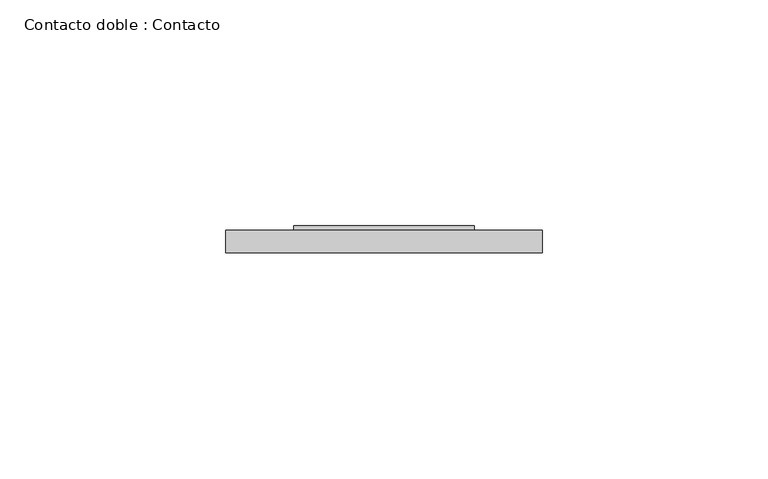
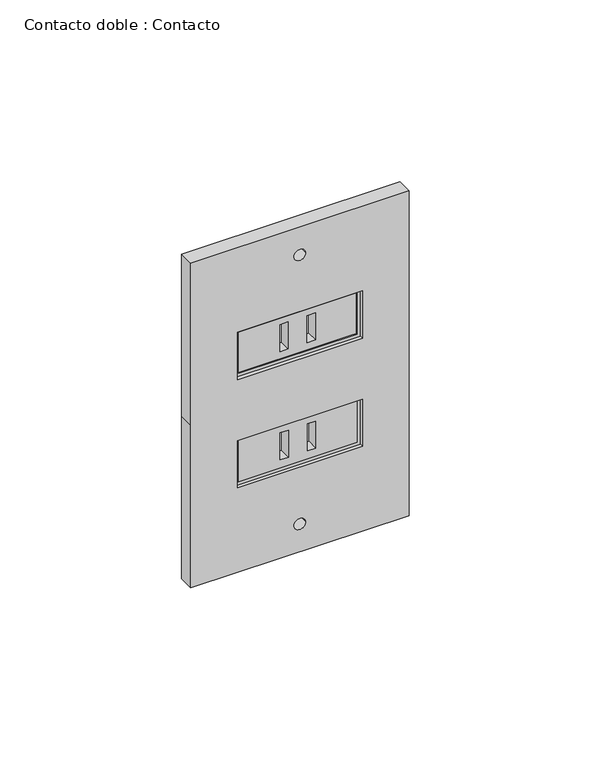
"""IFC4 building model written with IfcOpenShell, lengths in millimetres: proxy geometry, Contacto doble : Contacto."""

import ifcopenshell
import ifcopenshell.guid

model = None  # the IFC model being written
_history = None  # IfcOwnerHistory: only IFC2X3 demands one
_inside = {}  # id of a spatial element -> (the spatial element, [elements in it])
_under = {}  # id of a project, library or spatial element -> (it, [spatial elements below it])
_declared = {}  # id of a project -> (the project, [libraries it declares])
_typed = {}  # id of a type object -> (the type object, [elements of that type])
_made_of = {}  # id of a material, layer set ... -> (it, [elements and type objects made of it])


def new_model(schema):
    """Start an empty IFC model of exactly this schema.

    Asked for "IFC4X3", IfcOpenShell would pick the latest addendum, in which some entities
    have other attributes; the version numbers below select the first issue.
    IFC2X3 requires an IfcOwnerHistory on every rooted entity: one is made here for all.
    """
    global model, _history
    if schema == "IFC4X3":
        model = ifcopenshell.file(schema_version=(4, 3, 0, 0))
    else:
        model = ifcopenshell.file(schema=schema)
    _inside.clear()
    _under.clear()
    _declared.clear()
    _typed.clear()
    _made_of.clear()
    _history = None
    if model.schema == "IFC2X3":
        org = make("IfcOrganization", Name="unknown")
        user = make(
            "IfcPersonAndOrganization",
            ThePerson=make("IfcPerson", FamilyName="unknown"),
            TheOrganization=org,
        )
        app = make(
            "IfcApplication",
            ApplicationDeveloper=org,
            Version="unknown",
            ApplicationFullName="unknown",
            ApplicationIdentifier="unknown",
        )
        _history = make(
            "IfcOwnerHistory",
            OwningUser=user,
            OwningApplication=app,
            ChangeAction="ADDED",
            CreationDate=0,
        )
    return model


def make(cls, **values):
    """One entity of the class cls with the attributes given. An attribute that is None is left unset."""
    return model.create_entity(
        cls, **{name: value for name, value in values.items() if value is not None}
    )


def rooted(cls, **values):
    """An entity with a GlobalId (a new one), such as an element, a storey or a relation."""
    return make(cls, GlobalId=ifcopenshell.guid.new(), OwnerHistory=_history, **values)


def si_unit(unit_type, name, prefix=None):
    """IfcSIUnit, for example si_unit("LENGTHUNIT", "METRE", prefix="MILLI")."""
    return make("IfcSIUnit", UnitType=unit_type, Prefix=prefix, Name=name)


def assignment(units):
    """IfcUnitAssignment: the units of a project."""
    return None if units is None else make("IfcUnitAssignment", Units=units)


def point(xyz):
    """IfcCartesianPoint."""
    return None if xyz is None else make("IfcCartesianPoint", Coordinates=xyz)


def direction(xyz):
    """IfcDirection."""
    return None if xyz is None else make("IfcDirection", DirectionRatios=xyz)


def frame(location, z_axis=None, x_axis=None):
    """IfcAxis2Placement3D, a coordinate frame: its origin and axes. An axis left out is left unset."""
    return make(
        "IfcAxis2Placement3D",
        Location=point(location),
        Axis=direction(z_axis),
        RefDirection=direction(x_axis),
    )


def frame_2d(location, x_axis=None):
    """IfcAxis2Placement2D, a coordinate frame in the plane: its origin and x axis."""
    return make(
        "IfcAxis2Placement2D", Location=point(location), RefDirection=direction(x_axis)
    )


def origin():
    """The frame at (0, 0, 0) with its axes left unset."""
    return frame((0.0, 0.0, 0.0))


def place(relative_to, where):
    """IfcLocalPlacement: puts the frame where relative to a parent placement (None: the world)."""
    return make(
        "IfcLocalPlacement", PlacementRelTo=relative_to, RelativePlacement=where
    )


def context(
    kind, dimensions, precision=None, world=None, true_north=None, identifier=None
):
    """IfcGeometricRepresentationContext, for example the 3D "Model" context."""
    return make(
        "IfcGeometricRepresentationContext",
        ContextIdentifier=identifier,
        ContextType=kind,
        CoordinateSpaceDimension=dimensions,
        Precision=precision,
        WorldCoordinateSystem=world,
        TrueNorth=true_north,
    )


def project(units=None, contexts=None):
    """IfcProject with its units and contexts."""
    return rooted(
        "IfcProject",
        Name="project",
        RepresentationContexts=contexts,
        UnitsInContext=assignment(units),
    )


def spatial(cls, under=None, at=None, **own):
    """A site, building, storey or space (cls), placed at a placement, below another one or the project."""
    s = rooted(cls, ObjectPlacement=at, **own)
    if under is not None:
        _under.setdefault(under.id(), (under, []))[1].append(s)
    return s


def polyline(points):
    """IfcPolyline through the points."""
    return make("IfcPolyline", Points=[point(p) for p in points])


def circle_curve(where, radius):
    """IfcCircle in the frame where."""
    return make("IfcCircle", Position=where, Radius=radius)


def trimmed(basis, trim1, trim2, sense, master):
    """IfcTrimmedCurve: the piece of a basis curve between two trims."""
    return make(
        "IfcTrimmedCurve",
        BasisCurve=basis,
        Trim1=trim1,
        Trim2=trim2,
        SenseAgreement=sense,
        MasterRepresentation=master,
    )


def segment(curve, same_sense, transition):
    """IfcCompositeCurveSegment."""
    return make(
        "IfcCompositeCurveSegment",
        Transition=transition,
        SameSense=same_sense,
        ParentCurve=curve,
    )


def composite_curve(segments, self_intersect=None):
    """IfcCompositeCurve: segments joined end to end."""
    return make("IfcCompositeCurve", Segments=segments, SelfIntersect=self_intersect)


def outline(outer, holes=None, kind="AREA"):
    """IfcArbitraryClosedProfileDef: a profile drawn as a closed curve; with holes, ...WithVoids."""
    if holes is None:
        return make("IfcArbitraryClosedProfileDef", ProfileType=kind, OuterCurve=outer)
    return make(
        "IfcArbitraryProfileDefWithVoids",
        ProfileType=kind,
        OuterCurve=outer,
        InnerCurves=holes,
    )


def extrude(swept, where, along, depth):
    """IfcExtrudedAreaSolid: the profile swept, set in the frame where, extruded along a direction by depth."""
    return make(
        "IfcExtrudedAreaSolid",
        SweptArea=swept,
        Position=where,
        ExtrudedDirection=direction(along),
        Depth=depth,
    )


def shape(context_of_items, identifier, shape_type, items):
    """IfcShapeRepresentation: the items that make up one representation, for example the "Body"."""
    return make(
        "IfcShapeRepresentation",
        ContextOfItems=context_of_items,
        RepresentationIdentifier=identifier,
        RepresentationType=shape_type,
        Items=items,
    )


def source(mapping_origin, context_of_items, identifier, shape_type, items):
    """IfcRepresentationMap: a shape defined once, which mapped items show again and again."""
    return make(
        "IfcRepresentationMap",
        MappingOrigin=mapping_origin,
        MappedRepresentation=shape(context_of_items, identifier, shape_type, items),
    )


def transform(
    local_origin,
    x_axis=None,
    y_axis=None,
    z_axis=None,
    scale=None,
    scale2=None,
    scale3=None,
    uniform=True,
):
    """IfcCartesianTransformationOperator3D, or its non-uniform kind. x_axis, y_axis, z_axis: its Axis1, 2, 3."""
    if uniform:
        return make(
            "IfcCartesianTransformationOperator3D",
            Axis1=direction(x_axis),
            Axis2=direction(y_axis),
            LocalOrigin=point(local_origin),
            Scale=scale,
            Axis3=direction(z_axis),
        )
    return make(
        "IfcCartesianTransformationOperator3DnonUniform",
        Axis1=direction(x_axis),
        Axis2=direction(y_axis),
        LocalOrigin=point(local_origin),
        Scale=scale,
        Axis3=direction(z_axis),
        Scale2=scale2,
        Scale3=scale3,
    )


def mapped(mapping_source, mapping_target):
    """IfcMappedItem: shows the shape of a source again, moved by a transform."""
    return make(
        "IfcMappedItem", MappingSource=mapping_source, MappingTarget=mapping_target
    )


def made_of(thing, what):
    """Note that an element or type object is made of a material, layer set ...; save() writes the relation."""
    if what is not None:
        _made_of.setdefault(what.id(), (what, []))[1].append(thing)
    return thing


def element(
    cls,
    number,
    at=None,
    inside=None,
    cuts=None,
    type_object=None,
    material=None,
    context=None,
    identifier="Body",
    shape_type=None,
    held_by="IfcProductDefinitionShape",
    body=None,
    shapes=None,
    **own,
):
    """One element of the class cls, such as IfcWall. Its Tag is "e" and its number.

    at: its placement. inside: the storey or other place that contains it. cuts: it is an
    opening in that element (IfcRelVoidsElement). A single representation is given by context,
    identifier, shape_type and body (its items); several are given by shapes. held_by: the class
    of the entity that holds the representations. save() writes the other relations.
    """
    e = rooted(cls, Tag="e%d" % number, ObjectPlacement=at, **own)
    if body is not None:
        shapes = [shape(context, identifier, shape_type, body)]
    if shapes is not None:
        e.Representation = make(held_by, Representations=shapes)
    if inside is not None:
        _inside.setdefault(inside.id(), (inside, []))[1].append(e)
    if cuts is not None:
        rooted(
            "IfcRelVoidsElement", RelatingBuildingElement=cuts, RelatedOpeningElement=e
        )
    if type_object is not None:
        _typed.setdefault(type_object.id(), (type_object, []))[1].append(e)
    return made_of(e, material)


def aggregate(whole, parts):
    """IfcRelAggregates: a whole, such as a stair, and the parts it consists of."""
    return rooted("IfcRelAggregates", RelatingObject=whole, RelatedObjects=parts)


def save(model, path):
    """Write the relations noted so far, then the file.

    IfcRelAggregates (storeys below a building ...), IfcRelContainedInSpatialStructure (elements
    in a storey), IfcRelDefinesByType, IfcRelAssociatesMaterial and IfcRelDeclares: one each for
    every whole, place, type object, material and project.
    """
    for whole, parts in _under.values():
        aggregate(whole, parts)
    for where, things in _inside.values():
        rooted(
            "IfcRelContainedInSpatialStructure",
            RelatedElements=things,
            RelatingStructure=where,
        )
    for kind, things in _typed.values():
        rooted("IfcRelDefinesByType", RelatedObjects=things, RelatingType=kind)
    for what, things in _made_of.values():
        rooted("IfcRelAssociatesMaterial", RelatedObjects=things, RelatingMaterial=what)
    for by, libraries in _declared.values():
        rooted("IfcRelDeclares", RelatingContext=by, RelatedDefinitions=libraries)
    model.write(path)


def contacto_doble_contacto_92ccdea4(model_context):
    return source(origin(), model_context, "Body", "SweptSolid", [
        extrude(outline(polyline([(1088.6666667, 106.0359807), (1074.6666667, 106.0359807), (1074.6666667, 144.0359807), (1088.6666667, 144.0359807), (1088.6666667, 106.0359807)]), holes=[polyline([(1077.3652061, 121.9892242), (1077.3652061, 119.3302678), (1086.5176584, 119.3302678), (1086.5176584, 121.9892242), (1077.3652061, 121.9892242)]), polyline([(1077.3652061, 128.0827373), (1086.5176584, 128.0827373), (1086.5176584, 130.7416937), (1077.3652061, 130.7416937), (1077.3652061, 128.0827373)])]), frame((0.0, 71.2025607, 0.0), z_axis=(0.0, 1.0, 0.0), x_axis=(0.0, 0.0, 1.0)), (0.0, 0.0, 1.0), 3.7974393),
        extrude(outline(polyline([(1089.6666667, 145.0), (1089.6666667, 105.0), (1073.6666667, 105.0), (1073.6666667, 145.0), (1089.6666667, 145.0)]), holes=[polyline([(1088.6666667, 144.0359807), (1074.6666667, 144.0359807), (1074.6666667, 105.9197769), (1088.6666667, 105.9197769), (1088.6666667, 144.0359807)])]), frame((0.0, 71.2025607, 0.0), z_axis=(0.0, 1.0, 0.0), x_axis=(0.0, 0.0, 1.0)), (0.0, 0.0, 1.0), 4.7658788),
        extrude(outline(polyline([(1110.3333333, 145.0), (1126.3333333, 145.0), (1126.3333333, 105.0), (1110.3333333, 105.0), (1110.3333333, 145.0)]), holes=[polyline([(1125.3333333, 106.0), (1125.3333333, 144.0), (1111.3333333, 144.0), (1111.3333333, 106.0), (1125.3333333, 106.0)])]), frame((0.0, 71.2025607, 0.0), z_axis=(0.0, 1.0, 0.0), x_axis=(0.0, 0.0, 1.0)), (0.0, 0.0, 1.0), 4.7658788),
        extrude(outline(polyline([(1125.3333333, 106.0), (1111.3333333, 106.0), (1111.3333333, 144.0), (1125.3333333, 144.0), (1125.3333333, 106.0)]), holes=[polyline([(1114.0318727, 121.9532435), (1114.0318727, 119.2942871), (1123.184325, 119.2942871), (1123.184325, 121.9532435), (1114.0318727, 121.9532435)]), polyline([(1114.0318727, 128.0467565), (1123.184325, 128.0467565), (1123.184325, 130.7057129), (1114.0318727, 130.7057129), (1114.0318727, 128.0467565)])]), frame((0.0, 71.2025607, 0.0), z_axis=(0.0, 1.0, 0.0), x_axis=(0.0, 0.0, 1.0)), (0.0, 0.0, 1.0), 3.7974393),
        extrude(outline(polyline([(1155.0, 160.0), (1155.0, 90.0), (1100.0, 90.0), (1045.0, 90.0), (1045.0, 160.0), (1155.0, 160.0)]), holes=[composite_curve([segment(trimmed(circle_curve(frame_2d((1145.5814465, 125.0)), 1.8475425), [point((1145.5814465, 123.1524575))], [point((1145.5814465, 126.8475425))], True, "CARTESIAN"), True, "CONTINUOUS"), segment(trimmed(circle_curve(frame_2d((1145.5814465, 125.0)), 1.8475425), [point((1145.5814465, 126.8475425))], [point((1145.5814465, 123.1524575))], True, "CARTESIAN"), True, "CONTINUOUS")], self_intersect=False), composite_curve([segment(trimmed(circle_curve(frame_2d((1054.4185535, 125.0)), 1.8475425), [point((1054.4185535, 123.1524575))], [point((1054.4185535, 126.8475425))], True, "CARTESIAN"), True, "CONTINUOUS"), segment(trimmed(circle_curve(frame_2d((1054.4185535, 125.0)), 1.8475425), [point((1054.4185535, 126.8475425))], [point((1054.4185535, 123.1524575))], True, "CARTESIAN"), True, "CONTINUOUS")], self_intersect=False), polyline([(1089.6666667, 105.0), (1089.6666667, 145.0), (1073.6666667, 145.0), (1073.6666667, 105.0), (1089.6666667, 105.0)]), polyline([(1126.3333333, 105.0), (1126.3333333, 145.0), (1110.3333333, 145.0), (1110.3333333, 105.0), (1126.3333333, 105.0)])]), frame((0.0, 70.0, 0.0), z_axis=(0.0, 1.0, 0.0), x_axis=(0.0, 0.0, 1.0)), (0.0, 0.0, 1.0), 5.0),
    ])


if __name__ == "__main__":
    model = new_model("IFC4")
    model_context = context("Model", 3, world=origin())
    ifc_project = project(units=[si_unit("LENGTHUNIT", "METRE", prefix="MILLI")], contexts=[model_context])
    site = spatial("IfcSite", under=ifc_project)
    building = spatial("IfcBuilding", under=site)
    placement = place(None, origin())
    contacto_doble_contacto_shape = contacto_doble_contacto_92ccdea4(model_context)
    element("IfcBuildingElementProxy", 1, Name="Contacto doble : Contacto", ObjectType="Contacto doble : Contacto", at=placement, inside=building, context=model_context, shape_type="MappedRepresentation", body=[
        mapped(contacto_doble_contacto_shape, transform((0.0, 0.0, 0.0), x_axis=(1.0, 0.0, 0.0), y_axis=(0.0, 1.0, 0.0), z_axis=(0.0, 0.0, 1.0))),
    ])
    save(model, "model.ifc")
